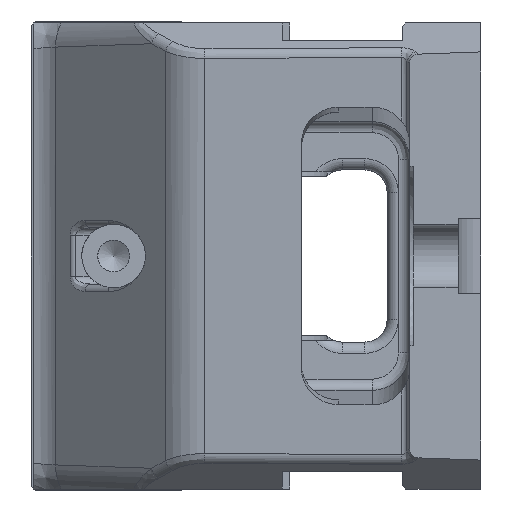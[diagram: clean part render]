
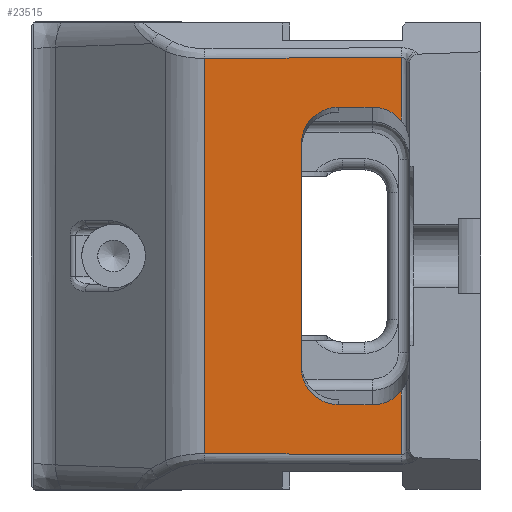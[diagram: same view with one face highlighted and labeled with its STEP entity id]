
A CAD part, left-side view. The second image highlights one B-rep face of the part: STEP entity #23515.
In plain terms, the highlighted planar face has unit normal (-0.999, 0.052, 0).
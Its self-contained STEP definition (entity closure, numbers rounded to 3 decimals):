
#124 = CARTESIAN_POINT ( 'NONE',  ( 1.708, 24.194, -69.633 ) ) ;
#180 = CARTESIAN_POINT ( 'NONE',  ( 1.81, 26.125, 38.465 ) ) ;
#253 = VERTEX_POINT ( 'NONE', #16999 ) ;
#298 = DIRECTION ( 'NONE',  ( 0., 0., 1. ) ) ;
#1972 = EDGE_CURVE ( 'NONE', #6246, #19165, #24467, .T. ) ;
#2142 = ORIENTED_EDGE ( 'NONE', *, *, #12372, .T. ) ;
#2453 = ORIENTED_EDGE ( 'NONE', *, *, #5298, .T. ) ;
#2818 = ORIENTED_EDGE ( 'NONE', *, *, #8151, .T. ) ;
#2885 = CARTESIAN_POINT ( 'NONE',  ( 2.589, 41., 39.728 ) ) ;
#3432 = CARTESIAN_POINT ( 'NONE',  ( 1.708, 24.194, -53.024 ) ) ;
#3927 = CARTESIAN_POINT ( 'NONE',  ( 4.461, 76.712, 52.78 ) ) ;
#4077 = DIRECTION ( 'NONE',  ( 0.999, -0.052, 0. ) ) ;
#4612 = CARTESIAN_POINT ( 'NONE',  ( 1.708, 24.194, 36.05 ) ) ;
#4631 = DIRECTION ( 'NONE',  ( 0.052, 0.999, -0.006 ) ) ;
#4982 = VERTEX_POINT ( 'NONE', #15322 ) ;
#5209 = VERTEX_POINT ( 'NONE', #5659 ) ;
#5248 = CARTESIAN_POINT ( 'NONE',  ( 2.589, 41., 39.728 ) ) ;
#5298 = EDGE_CURVE ( 'NONE', #11096, #22669, #12962, .T. ) ;
#5308 = AXIS2_PLACEMENT_3D ( 'NONE', #20662, #4077, #22384 ) ;
#5659 = CARTESIAN_POINT ( 'NONE',  ( 2.589, 41., -39.728 ) ) ;
#5675 =( BOUNDED_CURVE ( )  B_SPLINE_CURVE ( 3, ( #17055, #9668, #17968, #24305 ),
 .UNSPECIFIED., .F., .F. ) 
 B_SPLINE_CURVE_WITH_KNOTS ( ( 4, 4 ),
 ( 0.465, 2.036 ),
 .UNSPECIFIED. ) 
 CURVE ( )  GEOMETRIC_REPRESENTATION_ITEM ( )  RATIONAL_B_SPLINE_CURVE ( ( 1., 0.805, 0.805, 1. ) ) 
 REPRESENTATION_ITEM ( '' )  );
#6067 = CARTESIAN_POINT ( 'NONE',  ( 1.708, 24.194, -36.05 ) ) ;
#6246 = VERTEX_POINT ( 'NONE', #6067 ) ;
#6699 = VECTOR ( 'NONE', #298, 1000. ) ;
#7439 = CARTESIAN_POINT ( 'NONE',  ( 4.461, 76.72, -52.78 ) ) ;
#7510 = ORIENTED_EDGE ( 'NONE', *, *, #11029, .T. ) ;
#8151 = EDGE_CURVE ( 'NONE', #18257, #6246, #16684, .T. ) ;
#8209 = CARTESIAN_POINT ( 'NONE',  ( 1.708, 24.194, 36.05 ) ) ;
#8289 = EDGE_CURVE ( 'NONE', #22644, #21595, #22418, .T. ) ;
#9341 = LINE ( 'NONE', #26710, #26892 ) ;
#9668 = CARTESIAN_POINT ( 'NONE',  ( 2.896, 46.858, -39.696 ) ) ;
#9789 = CARTESIAN_POINT ( 'NONE',  ( 1.81, 26.125, -38.465 ) ) ;
#9899 = DIRECTION ( 'NONE',  ( 0., 0., 1. ) ) ;
#10052 = VERTEX_POINT ( 'NONE', #8209 ) ;
#10539 = VECTOR ( 'NONE', #22942, 1000. ) ;
#10723 = VERTEX_POINT ( 'NONE', #7439 ) ;
#11029 = EDGE_CURVE ( 'NONE', #253, #10052, #18538, .T. ) ;
#11096 = VERTEX_POINT ( 'NONE', #23377 ) ;
#11137 = EDGE_LOOP ( 'NONE', ( #15572, #2142, #2818, #19118, #24316, #11298, #24758, #13963, #13338, #7510, #24775, #2453 ) ) ;
#11298 = ORIENTED_EDGE ( 'NONE', *, *, #22648, .T. ) ;
#11303 = CARTESIAN_POINT ( 'NONE',  ( 3.113, 51., 29.618 ) ) ;
#11549 = FACE_OUTER_BOUND ( 'NONE', #11137, .T. ) ;
#12372 = EDGE_CURVE ( 'NONE', #10723, #18257, #19361, .T. ) ;
#12382 = PLANE ( 'NONE',  #5308 ) ;
#12633 = CARTESIAN_POINT ( 'NONE',  ( 1.956, 28.91, 39.794 ) ) ;
#12962 = LINE ( 'NONE', #3927, #21824 ) ;
#13338 = ORIENTED_EDGE ( 'NONE', *, *, #26645, .F. ) ;
#13945 = CARTESIAN_POINT ( 'NONE',  ( 4.453, 76.555, -39.532 ) ) ;
#13963 = ORIENTED_EDGE ( 'NONE', *, *, #8289, .T. ) ;
#15322 = CARTESIAN_POINT ( 'NONE',  ( 3.113, 51., -29.618 ) ) ;
#15572 = ORIENTED_EDGE ( 'NONE', *, *, #25527, .F. ) ;
#15699 = CARTESIAN_POINT ( 'NONE',  ( 4.461, 76.72, 52.78 ) ) ;
#16024 = LINE ( 'NONE', #18469, #10539 ) ;
#16240 = CARTESIAN_POINT ( 'NONE',  ( 2.118, 32., -39.777 ) ) ;
#16362 = DIRECTION ( 'NONE',  ( 0.052, 0.999, -0.005 ) ) ;
#16684 = LINE ( 'NONE', #124, #6699 ) ;
#16696 = VECTOR ( 'NONE', #16835, 1000. ) ;
#16835 = DIRECTION ( 'NONE',  ( -0.052, -0.999, -0.005 ) ) ;
#16999 = CARTESIAN_POINT ( 'NONE',  ( 2.118, 32., 39.777 ) ) ;
#17055 = CARTESIAN_POINT ( 'NONE',  ( 2.589, 41., -39.728 ) ) ;
#17337 = EDGE_CURVE ( 'NONE', #5209, #19165, #18177, .T. ) ;
#17569 = VECTOR ( 'NONE', #4631, 1000. ) ;
#17968 = CARTESIAN_POINT ( 'NONE',  ( 3.113, 51., -35.508 ) ) ;
#18106 = DIRECTION ( 'NONE',  ( -0.052, -0.999, -0.006 ) ) ;
#18177 = LINE ( 'NONE', #13945, #19475 ) ;
#18257 = VERTEX_POINT ( 'NONE', #3432 ) ;
#18469 = CARTESIAN_POINT ( 'NONE',  ( 3.113, 51., -69.633 ) ) ;
#18538 =( BOUNDED_CURVE ( )  B_SPLINE_CURVE ( 3, ( #22911, #12633, #180, #4612 ),
 .UNSPECIFIED., .F., .F. ) 
 B_SPLINE_CURVE_WITH_KNOTS ( ( 4, 4 ),
 ( 5.818, 6.714 ),
 .UNSPECIFIED. ) 
 CURVE ( )  GEOMETRIC_REPRESENTATION_ITEM ( )  RATIONAL_B_SPLINE_CURVE ( ( 1., 0.934, 0.934, 1. ) ) 
 REPRESENTATION_ITEM ( '' )  );
#18597 = CARTESIAN_POINT ( 'NONE',  ( 1.708, 24.186, -53.024 ) ) ;
#19013 = EDGE_CURVE ( 'NONE', #4982, #22644, #16024, .T. ) ;
#19118 = ORIENTED_EDGE ( 'NONE', *, *, #1972, .T. ) ;
#19165 = VERTEX_POINT ( 'NONE', #25422 ) ;
#19190 = CARTESIAN_POINT ( 'NONE',  ( 3.113, 51., 29.618 ) ) ;
#19361 = LINE ( 'NONE', #18597, #16696 ) ;
#19376 = CARTESIAN_POINT ( 'NONE',  ( 4.493, 77.32, 39.528 ) ) ;
#19475 = VECTOR ( 'NONE', #18106, 1000. ) ;
#20662 = CARTESIAN_POINT ( 'NONE',  ( 4.461, 76.72, -69.633 ) ) ;
#20714 = DIRECTION ( 'NONE',  ( 0., 0., 1. ) ) ;
#20728 = VECTOR ( 'NONE', #20714, 1000. ) ;
#21595 = VERTEX_POINT ( 'NONE', #2885 ) ;
#21824 = VECTOR ( 'NONE', #16362, 1000. ) ;
#22384 = DIRECTION ( 'NONE',  ( 0.052, 0.999, 0. ) ) ;
#22418 =( BOUNDED_CURVE ( )  B_SPLINE_CURVE ( 3, ( #11303, #23963, #23779, #5248 ),
 .UNSPECIFIED., .F., .F. ) 
 B_SPLINE_CURVE_WITH_KNOTS ( ( 4, 4 ),
 ( 1.106, 2.677 ),
 .UNSPECIFIED. ) 
 CURVE ( )  GEOMETRIC_REPRESENTATION_ITEM ( )  RATIONAL_B_SPLINE_CURVE ( ( 1., 0.805, 0.805, 1. ) ) 
 REPRESENTATION_ITEM ( '' )  );
#22447 = CARTESIAN_POINT ( 'NONE',  ( 1.708, 24.194, -69.633 ) ) ;
#22471 = CARTESIAN_POINT ( 'NONE',  ( 1.708, 24.194, -36.05 ) ) ;
#22644 = VERTEX_POINT ( 'NONE', #19190 ) ;
#22648 = EDGE_CURVE ( 'NONE', #5209, #4982, #5675, .T. ) ;
#22669 = VERTEX_POINT ( 'NONE', #15699 ) ;
#22869 = EDGE_CURVE ( 'NONE', #10052, #11096, #25328, .T. ) ;
#22911 = CARTESIAN_POINT ( 'NONE',  ( 2.118, 32., 39.777 ) ) ;
#22942 = DIRECTION ( 'NONE',  ( 0., 0., 1. ) ) ;
#23377 = CARTESIAN_POINT ( 'NONE',  ( 1.708, 24.194, 53.024 ) ) ;
#23507 = LINE ( 'NONE', #19376, #17569 ) ;
#23515 = ADVANCED_FACE ( 'NONE', ( #11549 ), #12382, .F. ) ;
#23779 = CARTESIAN_POINT ( 'NONE',  ( 2.896, 46.858, 39.696 ) ) ;
#23963 = CARTESIAN_POINT ( 'NONE',  ( 3.113, 51., 35.508 ) ) ;
#24305 = CARTESIAN_POINT ( 'NONE',  ( 3.113, 51., -29.618 ) ) ;
#24316 = ORIENTED_EDGE ( 'NONE', *, *, #17337, .F. ) ;
#24467 =( BOUNDED_CURVE ( )  B_SPLINE_CURVE ( 3, ( #22471, #9789, #24607, #16240 ),
 .UNSPECIFIED., .F., .F. ) 
 B_SPLINE_CURVE_WITH_KNOTS ( ( 4, 4 ),
 ( 2.711, 3.606 ),
 .UNSPECIFIED. ) 
 CURVE ( )  GEOMETRIC_REPRESENTATION_ITEM ( )  RATIONAL_B_SPLINE_CURVE ( ( 1., 0.934, 0.934, 1. ) ) 
 REPRESENTATION_ITEM ( '' )  );
#24607 = CARTESIAN_POINT ( 'NONE',  ( 1.956, 28.91, -39.794 ) ) ;
#24758 = ORIENTED_EDGE ( 'NONE', *, *, #19013, .T. ) ;
#24775 = ORIENTED_EDGE ( 'NONE', *, *, #22869, .T. ) ;
#25328 = LINE ( 'NONE', #22447, #20728 ) ;
#25422 = CARTESIAN_POINT ( 'NONE',  ( 2.118, 32., -39.777 ) ) ;
#25527 = EDGE_CURVE ( 'NONE', #10723, #22669, #9341, .T. ) ;
#26645 = EDGE_CURVE ( 'NONE', #253, #21595, #23507, .T. ) ;
#26710 = CARTESIAN_POINT ( 'NONE',  ( 4.461, 76.72, -69.633 ) ) ;
#26892 = VECTOR ( 'NONE', #9899, 1000. ) ;
